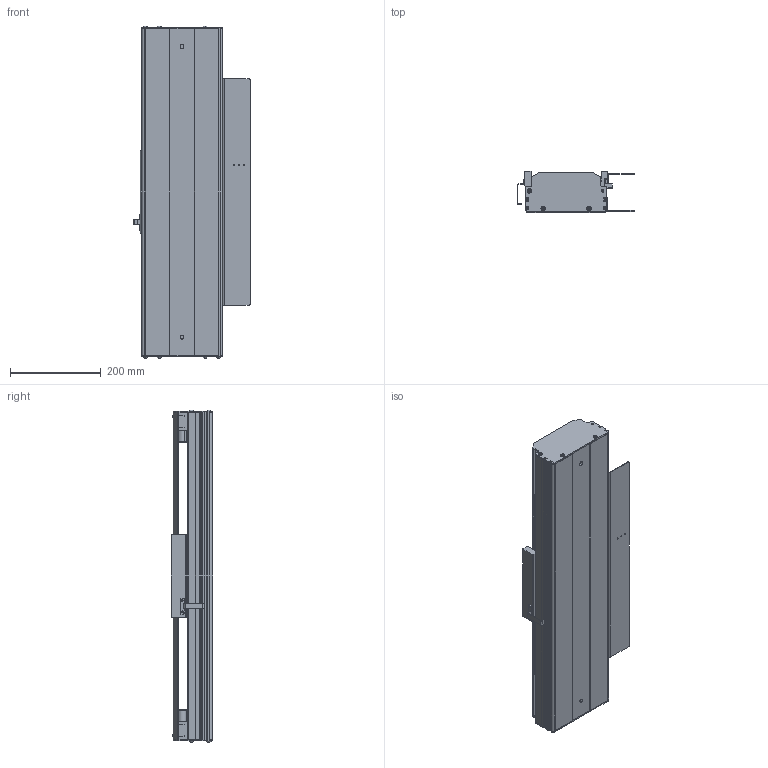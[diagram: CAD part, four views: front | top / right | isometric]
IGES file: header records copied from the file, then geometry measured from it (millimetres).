
Start section: SolidWorks IGES file using analytic representation for surfaces
Global section: file name: D:\設計圖檔\PBA\SLW180-DX30B-C3-S400\MTL180-400-30B-C3-R1_defeature.IGS; native system: SolidWorks 2019; preprocessor: SolidWorks 2019; author: user; date: 221026.143823; units: millimetre
Bounding box: 259.2 x 91 x 733.5 mm (x, y, z)
Surface area: 1235409.2 mm2 (no closed solid volume)
Topology: 0 solids, 0 shells, 1394 faces, 22240 edges, 22083 vertices
Faces by surface type: revolution 784, bspline 610
